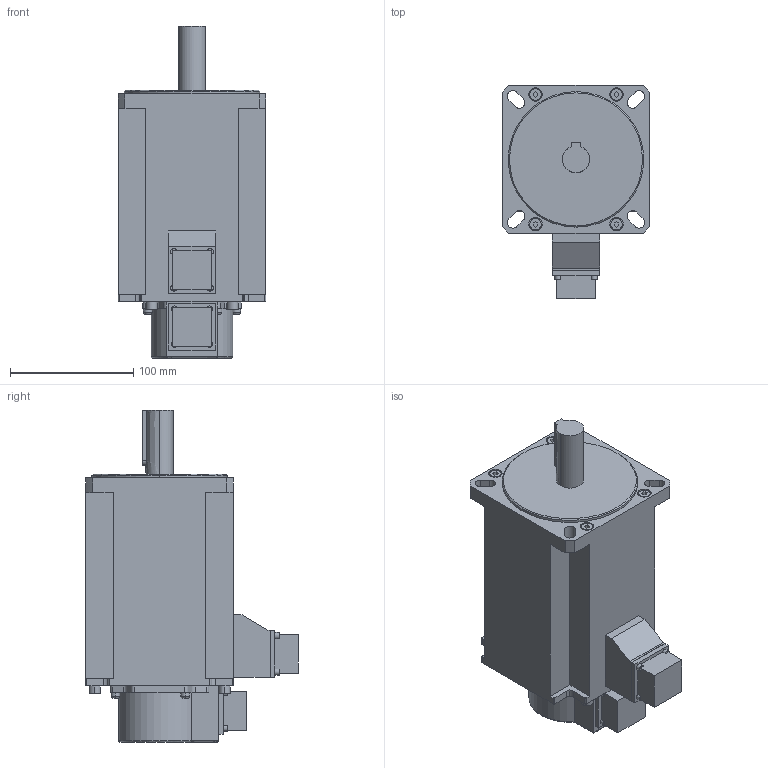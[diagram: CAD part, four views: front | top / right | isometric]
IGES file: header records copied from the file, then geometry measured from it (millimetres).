
Start section:  PTC IGES file: rsms_30ask3-070830.igs
Global section: file name: rsms_30ask3-070830.igs; native system: Pro/ENGINEER by Parametric Technology Corporation; preprocessor: 2004440; author: Administrator; organization: Unknown; date: 070830.160506; units: millimetre
Bounding box: 120 x 172.7 x 269.5 mm (x, y, z)
Volume: 2463262.3 mm3; surface area: 142720.2 mm2
Topology: 1 solids, 1 shells, 274 faces, 708 edges, 464 vertices
Faces by surface type: bspline 171, revolution 103
